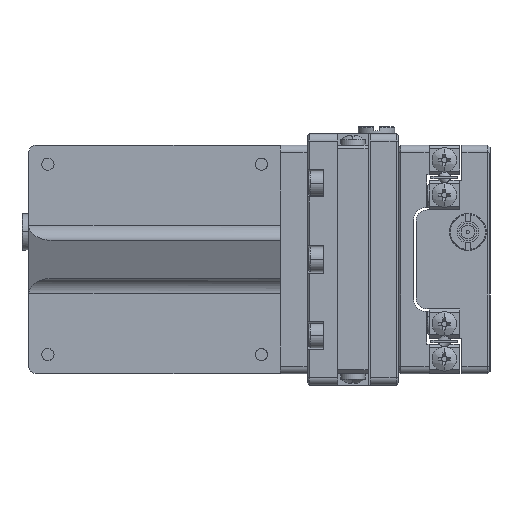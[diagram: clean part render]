
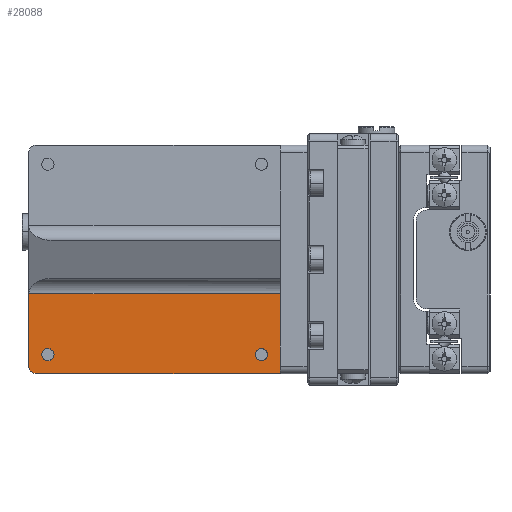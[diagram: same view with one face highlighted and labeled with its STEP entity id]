
A CAD part, left-side view. The second image highlights one B-rep face of the part: STEP entity #28088.
In plain terms, the highlighted planar face has unit normal (-1, 0, 0).
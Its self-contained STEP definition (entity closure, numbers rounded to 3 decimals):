
#1054 = EDGE_LOOP ( 'NONE', ( #54782, #55762 ) ) ;
#2814 = VERTEX_POINT ( 'NONE', #19835 ) ;
#4175 = VERTEX_POINT ( 'NONE', #56322 ) ;
#6166 = EDGE_CURVE ( 'NONE', #49818, #56367, #78619, .T. ) ;
#6226 = ORIENTED_EDGE ( 'NONE', *, *, #29193, .T. ) ;
#8705 = CARTESIAN_POINT ( 'NONE',  ( 7.5, 57.997, -12.5 ) ) ;
#8983 = EDGE_CURVE ( 'NONE', #34000, #4175, #25143, .T. ) ;
#9535 = CARTESIAN_POINT ( 'NONE',  ( 7.5, 27.497, 15. ) ) ;
#10031 = DIRECTION ( 'NONE',  ( 0., 0., 1. ) ) ;
#12277 = DIRECTION ( 'NONE',  ( 0., 1., 0. ) ) ;
#15550 = DIRECTION ( 'NONE',  ( 0., 0., -1. ) ) ;
#15859 = CARTESIAN_POINT ( 'NONE',  ( 7.5, 60.497, 15. ) ) ;
#17032 = LINE ( 'NONE', #29263, #27526 ) ;
#18623 = VECTOR ( 'NONE', #78586, 1000. ) ;
#19401 = EDGE_LOOP ( 'NONE', ( #6226, #28250 ) ) ;
#19607 = CARTESIAN_POINT ( 'NONE',  ( 7.5, 57.997, -12.5 ) ) ;
#19835 = CARTESIAN_POINT ( 'NONE',  ( 7.5, 29.997, -11.7 ) ) ;
#20426 = CARTESIAN_POINT ( 'NONE',  ( 7.5, 27.497, 15. ) ) ;
#25143 = LINE ( 'NONE', #15859, #61364 ) ;
#26471 = CIRCLE ( 'NONE', #90205, 0.8 ) ;
#27526 = VECTOR ( 'NONE', #88668, 1000. ) ;
#28088 = ADVANCED_FACE ( 'NONE', ( #51448, #67807, #31638 ), #80160, .F. ) ;
#28250 = ORIENTED_EDGE ( 'NONE', *, *, #59987, .T. ) ;
#28758 = CARTESIAN_POINT ( 'NONE',  ( 7.5, 27.497, -4.5 ) ) ;
#28873 = DIRECTION ( 'NONE',  ( 0., 0., 1. ) ) ;
#29193 = EDGE_CURVE ( 'NONE', #75176, #39723, #36011, .T. ) ;
#29263 = CARTESIAN_POINT ( 'NONE',  ( 7.5, 27.497, -4.5 ) ) ;
#31245 = DIRECTION ( 'NONE',  ( 1., 0., 0. ) ) ;
#31638 = FACE_BOUND ( 'NONE', #1054, .T. ) ;
#34000 = VERTEX_POINT ( 'NONE', #79328 ) ;
#36011 = CIRCLE ( 'NONE', #69149, 0.8 ) ;
#38404 = DIRECTION ( 'NONE',  ( 0., 0., 1. ) ) ;
#38460 = CARTESIAN_POINT ( 'NONE',  ( 7.5, 59.497, -14. ) ) ;
#39108 = DIRECTION ( 'NONE',  ( 0., 1., 0. ) ) ;
#39723 = VERTEX_POINT ( 'NONE', #57755 ) ;
#40178 = CARTESIAN_POINT ( 'NONE',  ( 7.5, 27.497, -15. ) ) ;
#41603 = EDGE_LOOP ( 'NONE', ( #87423, #46353, #96233, #78158, #84114 ) ) ;
#44490 = AXIS2_PLACEMENT_3D ( 'NONE', #19607, #94372, #87475 ) ;
#46353 = ORIENTED_EDGE ( 'NONE', *, *, #73622, .F. ) ;
#48634 = CARTESIAN_POINT ( 'NONE',  ( 7.5, 57.997, -11.7 ) ) ;
#49818 = VERTEX_POINT ( 'NONE', #28758 ) ;
#51448 = FACE_OUTER_BOUND ( 'NONE', #41603, .T. ) ;
#53062 = CARTESIAN_POINT ( 'NONE',  ( 7.5, 29.997, -13.3 ) ) ;
#53564 = CIRCLE ( 'NONE', #56782, 0.8 ) ;
#54406 = CARTESIAN_POINT ( 'NONE',  ( 7.5, 29.997, -12.5 ) ) ;
#54782 = ORIENTED_EDGE ( 'NONE', *, *, #80389, .T. ) ;
#55762 = ORIENTED_EDGE ( 'NONE', *, *, #78217, .T. ) ;
#56322 = CARTESIAN_POINT ( 'NONE',  ( 7.5, 60.497, -14. ) ) ;
#56367 = VERTEX_POINT ( 'NONE', #40178 ) ;
#56782 = AXIS2_PLACEMENT_3D ( 'NONE', #88606, #66333, #28873 ) ;
#57755 = CARTESIAN_POINT ( 'NONE',  ( 7.5, 57.997, -13.3 ) ) ;
#59987 = EDGE_CURVE ( 'NONE', #39723, #75176, #84204, .T. ) ;
#61364 = VECTOR ( 'NONE', #15550, 1000. ) ;
#64437 = AXIS2_PLACEMENT_3D ( 'NONE', #38460, #90716, #39108 ) ;
#66333 = DIRECTION ( 'NONE',  ( 1., 0., 0. ) ) ;
#66705 = CARTESIAN_POINT ( 'NONE',  ( 7.5, 59.497, -15. ) ) ;
#67393 = EDGE_CURVE ( 'NONE', #87287, #4175, #70426, .T. ) ;
#67807 = FACE_BOUND ( 'NONE', #19401, .T. ) ;
#69149 = AXIS2_PLACEMENT_3D ( 'NONE', #8705, #31245, #38404 ) ;
#70427 = VERTEX_POINT ( 'NONE', #53062 ) ;
#70426 = CIRCLE ( 'NONE', #64437, 1. ) ;
#72658 = DIRECTION ( 'NONE',  ( 1., 0., 0. ) ) ;
#73622 = EDGE_CURVE ( 'NONE', #56367, #87287, #75838, .T. ) ;
#75176 = VERTEX_POINT ( 'NONE', #48634 ) ;
#75838 = LINE ( 'NONE', #93658, #18623 ) ;
#78158 = ORIENTED_EDGE ( 'NONE', *, *, #80987, .F. ) ;
#78217 = EDGE_CURVE ( 'NONE', #70427, #2814, #53564, .T. ) ;
#78586 = DIRECTION ( 'NONE',  ( 0., 1., 0. ) ) ;
#78619 = LINE ( 'NONE', #9535, #96161 ) ;
#79328 = CARTESIAN_POINT ( 'NONE',  ( 7.5, 60.497, -4.5 ) ) ;
#80160 = PLANE ( 'NONE',  #85914 ) ;
#80389 = EDGE_CURVE ( 'NONE', #2814, #70427, #26471, .T. ) ;
#80987 = EDGE_CURVE ( 'NONE', #34000, #49818, #17032, .T. ) ;
#84114 = ORIENTED_EDGE ( 'NONE', *, *, #8983, .T. ) ;
#84175 = DIRECTION ( 'NONE',  ( 1., 0., 0. ) ) ;
#84204 = CIRCLE ( 'NONE', #44490, 0.8 ) ;
#85914 = AXIS2_PLACEMENT_3D ( 'NONE', #20426, #72658, #12277 ) ;
#87287 = VERTEX_POINT ( 'NONE', #66705 ) ;
#87423 = ORIENTED_EDGE ( 'NONE', *, *, #67393, .F. ) ;
#87475 = DIRECTION ( 'NONE',  ( 0., 0., 1. ) ) ;
#88606 = CARTESIAN_POINT ( 'NONE',  ( 7.5, 29.997, -12.5 ) ) ;
#88668 = DIRECTION ( 'NONE',  ( 0., -1., 0. ) ) ;
#90205 = AXIS2_PLACEMENT_3D ( 'NONE', #54406, #84175, #10031 ) ;
#90716 = DIRECTION ( 'NONE',  ( 1., 0., 0. ) ) ;
#91821 = DIRECTION ( 'NONE',  ( 0., 0., -1. ) ) ;
#93658 = CARTESIAN_POINT ( 'NONE',  ( 7.5, 23.997, -15. ) ) ;
#94372 = DIRECTION ( 'NONE',  ( 1., 0., 0. ) ) ;
#96161 = VECTOR ( 'NONE', #91821, 1000. ) ;
#96233 = ORIENTED_EDGE ( 'NONE', *, *, #6166, .F. ) ;
